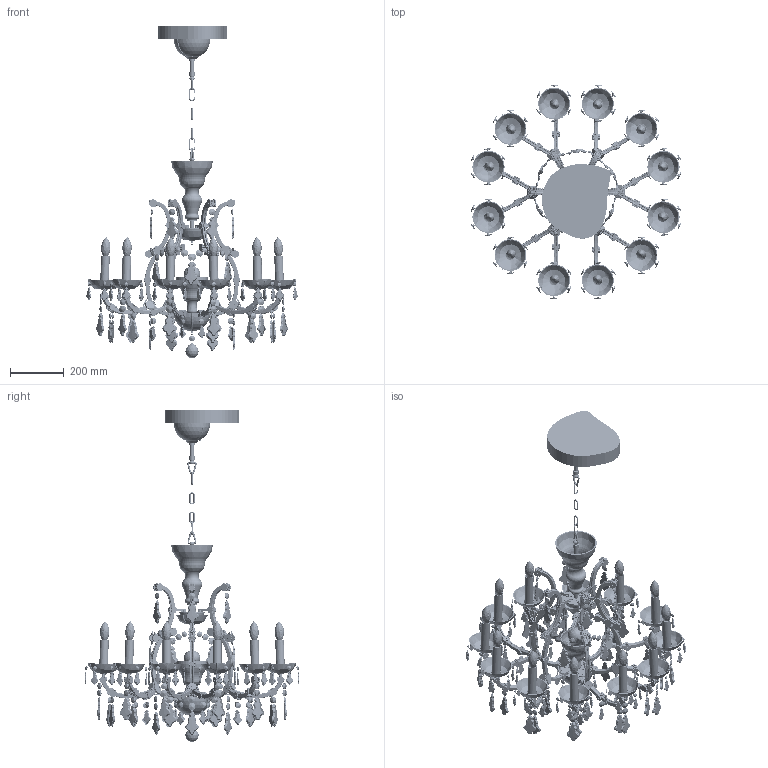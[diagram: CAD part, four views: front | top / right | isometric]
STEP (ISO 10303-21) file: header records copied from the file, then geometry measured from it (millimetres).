
FILE_DESCRIPTION(/* description */ (''),/* implementation_level */ '2;1');
FILE_NAME(/* name */ 'D:\Users\boris.ha\Desktop\Collections\Empress\Pendant\Empress S.stp',/* time_stamp */ '2017-11-09T14:09:03+01:00',/* author */ ('boris.ha'),/* organization */ (''),/* preprocessor_version */ 'ST-DEVELOPER v16.13',/* originating_system */ 'Autodesk Inventor 2018',/* authorisation */ '');
FILE_SCHEMA (('AUTOMOTIVE_DESIGN { 1 0 10303 214 3 1 1 }'));
Products named in the file (1): Empress S
Bounding box: 784.67 x 797.69 x 1233.51 mm (x, y, z)
Volume: 7778847.3 mm3; surface area: 3637315.8 mm2
Topology: 874 solids, 887 shells, 32651 faces, 94598 edges, 61667 vertices
Faces by surface type: plane 16626, bspline 7952, cylinder 5484, cone 2477, torus 91, sphere 21
Full cylindrical faces by diameter (mm): 1 x94, 1.1 x12, 1.4 x350, 1.75 x42, 2 x73, 2.459 x2, 2.5 x9, 3 x349, 3.242 x12, 4 x2, 4.917 x4, 5 x10, 6 x25, 6.5 x1, 7 x25, 8 x8, 8.917 x32, 9 x9, 10 x26, 10.604 x1, 11 x4, 11.445 x1, 11.835 x12, 13 x9, 13.157 x2, 13.5 x14, 13.8 x2, 14 x12, 14.5 x2, 15 x17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
Entity records: 1270447 total; most frequent: CARTESIAN_POINT 439489, ORIENTED_EDGE 184069, DIRECTION 140375, EDGE_CURVE 92047, VERTEX_POINT 60932, LINE 47349, VECTOR 47349, AXIS2_PLACEMENT_3D 46513
